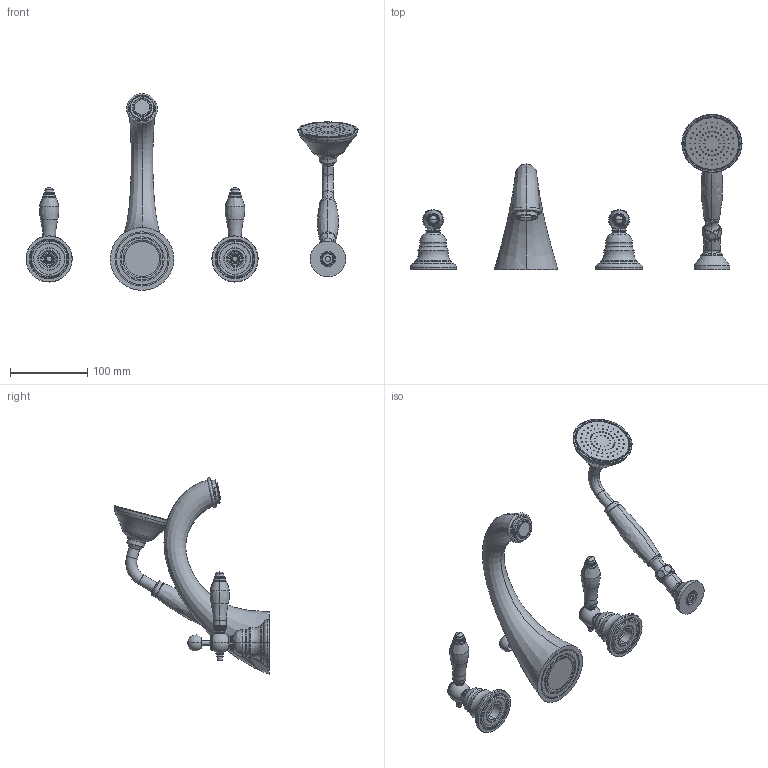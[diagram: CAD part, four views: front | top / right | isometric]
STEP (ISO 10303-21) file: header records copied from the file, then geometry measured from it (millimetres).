
FILE_DESCRIPTION((''),'2;1');
FILE_NAME('F5414_FILE_3F','2013-08-01T',('ivanv'),(''),'PRO/ENGINEER BY PARAMETRIC TECHNOLOGY CORPORATION, 2012130','PRO/ENGINEER BY PARAMETRIC TECHNOLOGY CORPORATION, 2012130','');
FILE_SCHEMA(('CONFIG_CONTROL_DESIGN'));
Length unit declared in the file: millimetre
Products named in the file (1): F5414_FILE_3F
Bounding box: 428.7 x 200.11 x 253.89 mm (x, y, z)
Volume: 402726.1 mm3; surface area: 214199.7 mm2
Topology: 8 solids, 11 shells, 2120 faces, 5265 edges, 3232 vertices
Faces by surface type: plane 972, cylinder 668, torus 233, cone 202, bspline 24, sphere 21
Entity records: 68013 total; most frequent: CARTESIAN_POINT 17013, DIRECTION 11101, ORIENTED_EDGE 10490, EDGE_CURVE 5245, AXIS2_PLACEMENT_3D 4506, VERTEX_POINT 3232, CIRCLE 2409, EDGE_LOOP 2403
